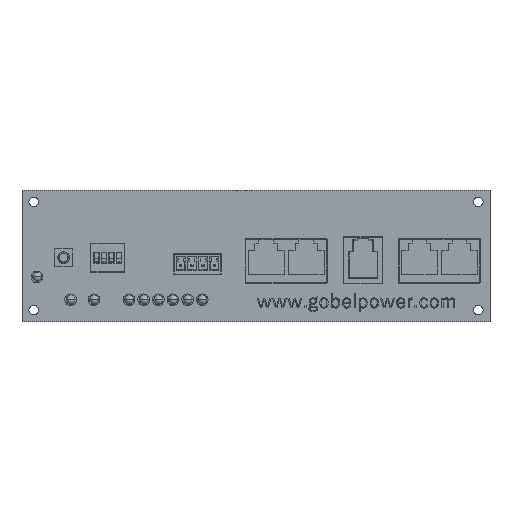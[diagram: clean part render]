
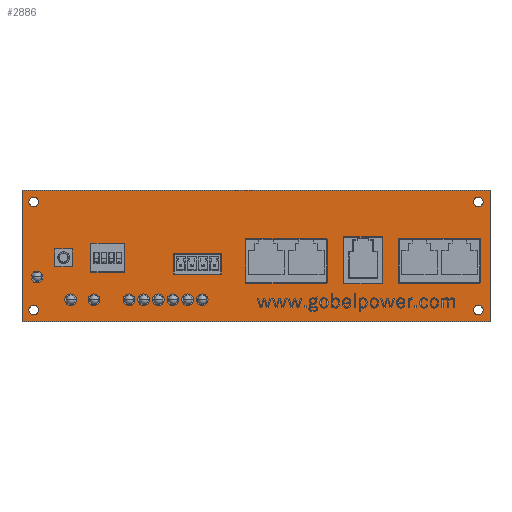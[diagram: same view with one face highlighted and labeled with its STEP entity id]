
A CAD part, top view. The second image highlights one B-rep face of the part: STEP entity #2886.
In plain terms, the highlighted planar face has unit normal (0, 0, 1).
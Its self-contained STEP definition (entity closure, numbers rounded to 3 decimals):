
#633 = ORIENTED_EDGE ( 'NONE', *, *, #29114, .T. ) ;
#730 = CARTESIAN_POINT ( 'NONE',  ( 76., 18.5, 2. ) ) ;
#1342 = CARTESIAN_POINT ( 'NONE',  ( 77.65, -18.5, 2. ) ) ;
#1356 = ORIENTED_EDGE ( 'NONE', *, *, #25233, .F. ) ;
#1464 = ORIENTED_EDGE ( 'NONE', *, *, #21974, .F. ) ;
#1544 = FACE_OUTER_BOUND ( 'NONE', #37608, .T. ) ;
#1945 = DIRECTION ( 'NONE',  ( -1., 0., 0. ) ) ;
#2145 = EDGE_CURVE ( 'NONE', #9596, #21591, #23553, .T. ) ;
#2475 = VERTEX_POINT ( 'NONE', #12292 ) ;
#2515 = CARTESIAN_POINT ( 'NONE',  ( -74.35, -18.5, 2. ) ) ;
#2528 = LINE ( 'NONE', #14373, #15556 ) ;
#2886 = ADVANCED_FACE ( 'NONE', ( #33788, #36929, #13972, #28475, #1544 ), #7950, .T. ) ;
#3051 = VERTEX_POINT ( 'NONE', #2515 ) ;
#3486 = DIRECTION ( 'NONE',  ( 1., 0., 0. ) ) ;
#3790 = DIRECTION ( 'NONE',  ( 1., 0., 0. ) ) ;
#3911 = EDGE_CURVE ( 'NONE', #3051, #15292, #33657, .T. ) ;
#4063 = CIRCLE ( 'NONE', #15890, 1.65 ) ;
#4142 = CARTESIAN_POINT ( 'NONE',  ( -80., -22.5, 2. ) ) ;
#4830 = DIRECTION ( 'NONE',  ( 1., 0., 0. ) ) ;
#5227 = DIRECTION ( 'NONE',  ( 0., 0., 1. ) ) ;
#6710 = CARTESIAN_POINT ( 'NONE',  ( 76., -18.5, 2. ) ) ;
#6958 = CIRCLE ( 'NONE', #33179, 1.65 ) ;
#6970 = DIRECTION ( 'NONE',  ( 0., 0., 1. ) ) ;
#7252 = VERTEX_POINT ( 'NONE', #8745 ) ;
#7321 = LINE ( 'NONE', #19219, #24218 ) ;
#7740 = ORIENTED_EDGE ( 'NONE', *, *, #31852, .F. ) ;
#7950 = PLANE ( 'NONE',  #16150 ) ;
#8384 = DIRECTION ( 'NONE',  ( 0., 0., 1. ) ) ;
#8447 = EDGE_CURVE ( 'NONE', #15807, #25753, #30926, .T. ) ;
#8745 = CARTESIAN_POINT ( 'NONE',  ( -80., 22.5, 2. ) ) ;
#9596 = VERTEX_POINT ( 'NONE', #14814 ) ;
#9650 = AXIS2_PLACEMENT_3D ( 'NONE', #13419, #31633, #16746 ) ;
#10088 = CARTESIAN_POINT ( 'NONE',  ( 74.35, 18.5, 2. ) ) ;
#10092 = AXIS2_PLACEMENT_3D ( 'NONE', #32016, #16940, #31634 ) ;
#10141 = DIRECTION ( 'NONE',  ( 0., 1., 0. ) ) ;
#10360 = ORIENTED_EDGE ( 'NONE', *, *, #2145, .F. ) ;
#10870 = DIRECTION ( 'NONE',  ( 1., 0., 0. ) ) ;
#12292 = CARTESIAN_POINT ( 'NONE',  ( 77.65, 18.5, 2. ) ) ;
#12541 = DIRECTION ( 'NONE',  ( 1., 0., 0. ) ) ;
#13419 = CARTESIAN_POINT ( 'NONE',  ( -76., -18.5, 2. ) ) ;
#13972 = FACE_BOUND ( 'NONE', #33810, .T. ) ;
#14373 = CARTESIAN_POINT ( 'NONE',  ( -80., 22.5, 2. ) ) ;
#14403 = ORIENTED_EDGE ( 'NONE', *, *, #3911, .F. ) ;
#14814 = CARTESIAN_POINT ( 'NONE',  ( 74.35, -18.5, 2. ) ) ;
#14904 = CARTESIAN_POINT ( 'NONE',  ( -74.35, 18.5, 2. ) ) ;
#15292 = VERTEX_POINT ( 'NONE', #23141 ) ;
#15477 = DIRECTION ( 'NONE',  ( 0., 0., 1. ) ) ;
#15556 = VECTOR ( 'NONE', #1945, 1000. ) ;
#15807 = VERTEX_POINT ( 'NONE', #27576 ) ;
#15890 = AXIS2_PLACEMENT_3D ( 'NONE', #19887, #25374, #37950 ) ;
#16150 = AXIS2_PLACEMENT_3D ( 'NONE', #34350, #5227, #10870 ) ;
#16231 = VERTEX_POINT ( 'NONE', #25759 ) ;
#16340 = EDGE_LOOP ( 'NONE', ( #14403, #17989 ) ) ;
#16746 = DIRECTION ( 'NONE',  ( 1., 0., 0. ) ) ;
#16915 = CIRCLE ( 'NONE', #10092, 1.65 ) ;
#16940 = DIRECTION ( 'NONE',  ( 0., 0., 1. ) ) ;
#16963 = DIRECTION ( 'NONE',  ( 1., 0., 0. ) ) ;
#17325 = AXIS2_PLACEMENT_3D ( 'NONE', #18417, #27373, #12541 ) ;
#17989 = ORIENTED_EDGE ( 'NONE', *, *, #38195, .F. ) ;
#18417 = CARTESIAN_POINT ( 'NONE',  ( 76., -18.5, 2. ) ) ;
#18989 = CIRCLE ( 'NONE', #9650, 1.65 ) ;
#19219 = CARTESIAN_POINT ( 'NONE',  ( -80., 22.5, 2. ) ) ;
#19527 = DIRECTION ( 'NONE',  ( 1., 0., 0. ) ) ;
#19664 = ORIENTED_EDGE ( 'NONE', *, *, #37051, .T. ) ;
#19871 = CIRCLE ( 'NONE', #24861, 1.65 ) ;
#19887 = CARTESIAN_POINT ( 'NONE',  ( -76., 18.5, 2. ) ) ;
#21235 = LINE ( 'NONE', #30674, #35958 ) ;
#21591 = VERTEX_POINT ( 'NONE', #1342 ) ;
#21759 = CARTESIAN_POINT ( 'NONE',  ( 80., 22.5, 2. ) ) ;
#21851 = VERTEX_POINT ( 'NONE', #10088 ) ;
#21897 = EDGE_CURVE ( 'NONE', #7252, #15807, #7321, .T. ) ;
#21974 = EDGE_CURVE ( 'NONE', #21591, #9596, #19871, .T. ) ;
#22863 = EDGE_LOOP ( 'NONE', ( #24698, #7740 ) ) ;
#23141 = CARTESIAN_POINT ( 'NONE',  ( -77.65, -18.5, 2. ) ) ;
#23553 = CIRCLE ( 'NONE', #17325, 1.65 ) ;
#24077 = ORIENTED_EDGE ( 'NONE', *, *, #8447, .T. ) ;
#24200 = AXIS2_PLACEMENT_3D ( 'NONE', #32352, #35313, #4830 ) ;
#24218 = VECTOR ( 'NONE', #31190, 1000. ) ;
#24698 = ORIENTED_EDGE ( 'NONE', *, *, #34648, .F. ) ;
#24861 = AXIS2_PLACEMENT_3D ( 'NONE', #6710, #15477, #3790 ) ;
#25049 = CIRCLE ( 'NONE', #32560, 1.65 ) ;
#25233 = EDGE_CURVE ( 'NONE', #2475, #21851, #6958, .T. ) ;
#25374 = DIRECTION ( 'NONE',  ( 0., 0., 1. ) ) ;
#25753 = VERTEX_POINT ( 'NONE', #36482 ) ;
#25759 = CARTESIAN_POINT ( 'NONE',  ( -77.65, 18.5, 2. ) ) ;
#27373 = DIRECTION ( 'NONE',  ( 0., 0., 1. ) ) ;
#27576 = CARTESIAN_POINT ( 'NONE',  ( -80., -22.5, 2. ) ) ;
#28475 = FACE_BOUND ( 'NONE', #22863, .T. ) ;
#28591 = VERTEX_POINT ( 'NONE', #21759 ) ;
#29114 = EDGE_CURVE ( 'NONE', #28591, #7252, #2528, .T. ) ;
#30674 = CARTESIAN_POINT ( 'NONE',  ( 80., 22.5, 2. ) ) ;
#30926 = LINE ( 'NONE', #4142, #36009 ) ;
#31190 = DIRECTION ( 'NONE',  ( 0., -1., 0. ) ) ;
#31633 = DIRECTION ( 'NONE',  ( 0., 0., 1. ) ) ;
#31634 = DIRECTION ( 'NONE',  ( 1., 0., 0. ) ) ;
#31732 = ORIENTED_EDGE ( 'NONE', *, *, #32133, .F. ) ;
#31852 = EDGE_CURVE ( 'NONE', #16231, #32410, #16915, .T. ) ;
#32016 = CARTESIAN_POINT ( 'NONE',  ( -76., 18.5, 2. ) ) ;
#32133 = EDGE_CURVE ( 'NONE', #21851, #2475, #25049, .T. ) ;
#32352 = CARTESIAN_POINT ( 'NONE',  ( -76., -18.5, 2. ) ) ;
#32410 = VERTEX_POINT ( 'NONE', #14904 ) ;
#32560 = AXIS2_PLACEMENT_3D ( 'NONE', #730, #6970, #3486 ) ;
#33179 = AXIS2_PLACEMENT_3D ( 'NONE', #37555, #8384, #16963 ) ;
#33657 = CIRCLE ( 'NONE', #24200, 1.65 ) ;
#33788 = FACE_BOUND ( 'NONE', #16340, .T. ) ;
#33810 = EDGE_LOOP ( 'NONE', ( #1464, #10360 ) ) ;
#34350 = CARTESIAN_POINT ( 'NONE',  ( 0., 0., 2. ) ) ;
#34648 = EDGE_CURVE ( 'NONE', #32410, #16231, #4063, .T. ) ;
#35313 = DIRECTION ( 'NONE',  ( 0., 0., 1. ) ) ;
#35881 = EDGE_LOOP ( 'NONE', ( #1356, #31732 ) ) ;
#35958 = VECTOR ( 'NONE', #10141, 1000. ) ;
#36009 = VECTOR ( 'NONE', #19527, 1000. ) ;
#36482 = CARTESIAN_POINT ( 'NONE',  ( 80., -22.5, 2. ) ) ;
#36929 = FACE_BOUND ( 'NONE', #35881, .T. ) ;
#37051 = EDGE_CURVE ( 'NONE', #25753, #28591, #21235, .T. ) ;
#37433 = ORIENTED_EDGE ( 'NONE', *, *, #21897, .T. ) ;
#37555 = CARTESIAN_POINT ( 'NONE',  ( 76., 18.5, 2. ) ) ;
#37608 = EDGE_LOOP ( 'NONE', ( #19664, #633, #37433, #24077 ) ) ;
#37950 = DIRECTION ( 'NONE',  ( 1., 0., 0. ) ) ;
#38195 = EDGE_CURVE ( 'NONE', #15292, #3051, #18989, .T. ) ;
